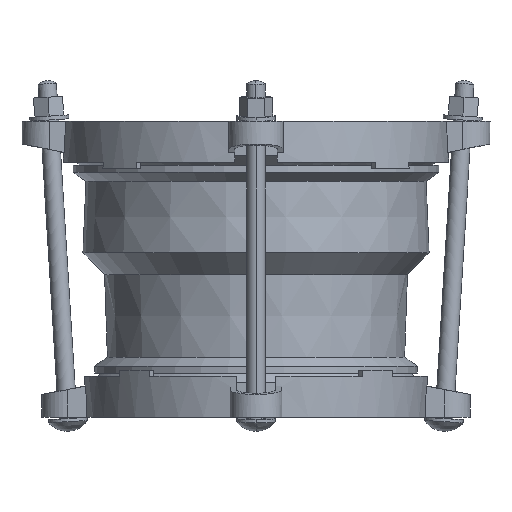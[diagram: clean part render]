
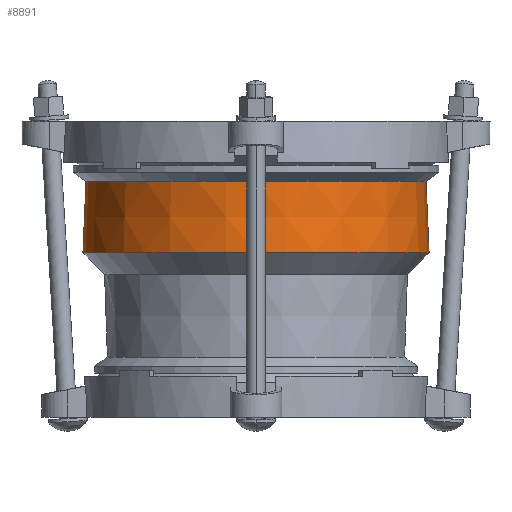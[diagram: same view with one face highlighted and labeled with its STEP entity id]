
A CAD part, left-side view. The second image highlights one B-rep face of the part: STEP entity #8891.
In plain terms, the highlighted conical face has half-angle 2.442 degrees and reference radius 112.351 mm.
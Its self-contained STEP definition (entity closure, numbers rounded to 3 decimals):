
#8524=DIRECTION('',(0.,-0.043,0.999));
#8525=VECTOR('',#8524,46.933);
#8526=CARTESIAN_POINT('',(0.,113.351,-86.272));
#8527=LINE('',#8526,#8525);
#8533=DIRECTION('',(0.,0.043,0.999));
#8534=VECTOR('',#8533,46.933);
#8535=CARTESIAN_POINT('',(0.,-113.351,
-86.272));
#8536=LINE('',#8535,#8534);
#8537=CARTESIAN_POINT('',(0.,0.,-86.272));
#8538=DIRECTION('',(0.,0.,1.));
#8539=DIRECTION('',(0.,1.,0.));
#8540=AXIS2_PLACEMENT_3D('',#8537,#8538,#8539);
#8542=CARTESIAN_POINT('',(0.,0.,-39.381));
#8543=DIRECTION('',(0.,0.,1.));
#8544=DIRECTION('',(0.,1.,0.));
#8545=AXIS2_PLACEMENT_3D('',#8542,#8543,#8544);
#8684=CARTESIAN_POINT('',(0.,113.351,-86.272));
#8685=VERTEX_POINT('',#8684);
#8686=CARTESIAN_POINT('',(0.,111.351,-39.381));
#8687=VERTEX_POINT('',#8686);
#8712=CARTESIAN_POINT('',(0.,-113.351,
-86.272));
#8713=VERTEX_POINT('',#8712);
#8714=CARTESIAN_POINT('',(0.,-111.351,
-39.381));
#8715=VERTEX_POINT('',#8714);
#8879=CARTESIAN_POINT('',(0.,0.,-62.826));
#8880=DIRECTION('',(0.,0.,-1.));
#8881=DIRECTION('',(0.,-1.,0.));
#8882=AXIS2_PLACEMENT_3D('',#8879,#8880,#8881);
#8883=CONICAL_SURFACE('',#8882,112.351,2.442);
#8884=ORIENTED_EDGE('',*,*,#8869,.T.);
#8886=ORIENTED_EDGE('',*,*,#8885,.T.);
#8887=ORIENTED_EDGE('',*,*,#8872,.F.);
#8888=ORIENTED_EDGE('',*,*,#8843,.F.);
#8889=EDGE_LOOP('',(#8884,#8886,#8887,#8888));
#8890=FACE_OUTER_BOUND('',#8889,.F.);
#8891=ADVANCED_FACE('',(#8890),#8883,.T.);
#8541=CIRCLE('',#8540,113.351);
#8546=CIRCLE('',#8545,111.351);
#8843=EDGE_CURVE('',#8685,#8713,#8541,.T.);
#8869=EDGE_CURVE('',#8685,#8687,#8527,.T.);
#8872=EDGE_CURVE('',#8713,#8715,#8536,.T.);
#8885=EDGE_CURVE('',#8687,#8715,#8546,.T.);
